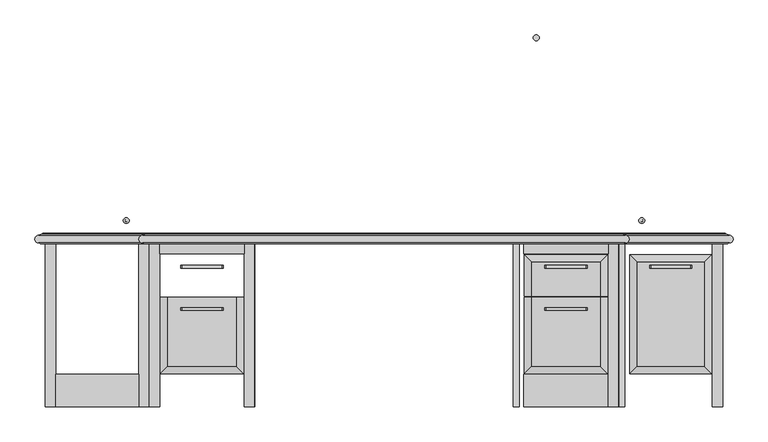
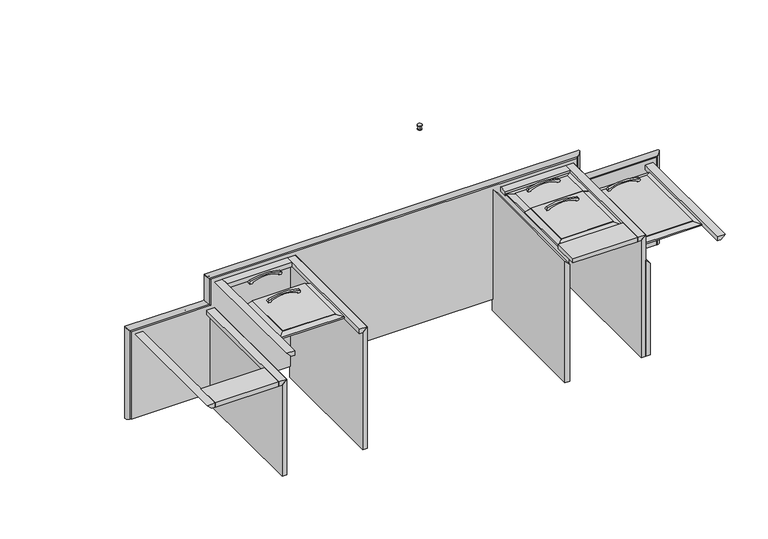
"""IFC4 building model written with IfcOpenShell, lengths in millimetres: proxy geometry, CCN^BRIGHTON_L2-C STEPPED WALL-SOLID ASSEMBLY."""

from ifc_helpers import new_model, si_unit, point, frame, frame_2d, origin, place, context, project, spatial, polyline, circle_curve, ellipse_curve, trimmed, segment, composite_curve, outline, extrude, faceted_brep, source, transform, mapped, element, save
from ifc_brep_helpers import plane_surface, cylinder_surface, revolved_surface, advanced_brep


def generic_models_80e4cf9a(model_context):
    return source(origin(), model_context, "Body", "SolidModel", [
        extrude(outline(composite_curve([segment(polyline([(-594.8536526, 2798.0542667), (-594.8536526, 2809.3679752)]), True, "CONTINUOUS"), segment(trimmed(circle_curve(frame_2d((-587.8536526, 2803.7111209)), 9.0), [point((-594.8536526, 2809.3679752))], [point((-587.8536526, 2812.7111209))], False, "CARTESIAN"), True, "CONTINUOUS"), segment(trimmed(circle_curve(frame_2d((-750.4231454, 2884.7111209)), 177.8), [point((-587.8536526, 2812.7111209))], [point((-587.8536526, 2956.7111209))], True, "CARTESIAN"), True, "CONTINUOUS"), segment(trimmed(circle_curve(frame_2d((-587.8536526, 2965.7111209)), 9.0), [point((-587.8536526, 2956.7111209))], [point((-594.8536526, 2960.0542667))], False, "CARTESIAN"), True, "CONTINUOUS"), segment(polyline([(-594.8536526, 2960.0542667), (-594.8536526, 2971.3679752)]), True, "CONTINUOUS"), segment(trimmed(circle_curve(frame_2d((-587.8536526, 2965.7111209)), 9.0), [point((-594.8536526, 2971.3679752))], [point((-579.2402298, 2968.3205169))], False, "CARTESIAN"), True, "CONTINUOUS"), segment(trimmed(circle_curve(frame_2d((-855.2286526, 2884.7111209)), 288.375), [point((-579.2402298, 2968.3205169))], [point((-579.2402298, 2801.1017249))], False, "CARTESIAN"), True, "CONTINUOUS"), segment(trimmed(circle_curve(frame_2d((-587.8536526, 2803.7111209)), 9.0), [point((-579.2402298, 2801.1017249))], [point((-594.8536526, 2798.0542667))], False, "CARTESIAN"), True, "CONTINUOUS")], self_intersect=False)), frame((0.0, -1149.5512284, 0.0), z_axis=(0.0, 1.0, 0.0), x_axis=(0.0, 0.0, 1.0)), (0.0, 0.0, 1.0), 12.0),
        advanced_brep(
        [(2310.0361209, -178.1512284, -631.0036526), (2310.0361209, -178.1512284, -627.0036526), (2310.0361209, -153.1512284, -627.0036526), (2310.0361209, -153.1512284, -631.0036526), (2310.0361209, -172.1512284, -640.075142), (2310.0361209, -176.1512284, -648.0036526), (2310.0361209, -155.1512284, -648.0036526), (2310.0361209, -159.1512284, -640.075142), (2310.0361209, -176.1512284, -652.0036526), (2310.0361209, -155.1512284, -652.0036526)],
        [
            (0, 1),
            (1, 2, circle_curve(frame((2310.0361209, -165.6512284, -627.0036526), z_axis=(0.0, 0.0, -1.0), x_axis=(0.0, -1.0, 0.0)), 12.5)),
            (2, 3),
            (3, 0, circle_curve(frame((2310.0361209, -165.6512284, -631.0036526), z_axis=(0.0, 0.0, 1.0), x_axis=(0.0, -1.0, 0.0)), 12.5)),
            (0, 4, circle_curve(frame((2310.0361209, -182.0088884, -640.075142), z_axis=(-1.0, 0.0, 0.0), x_axis=(0.0, -1.0, 0.0)), 9.85766)),
            (4, 5, circle_curve(frame((2310.0361209, -182.0088884, -640.075142), z_axis=(-1.0, 0.0, 0.0), x_axis=(0.0, -1.0, 0.0)), 9.85766)),
            (5, 6, circle_curve(frame((2310.0361209, -165.6512284, -648.0036526), z_axis=(0.0, 0.0, 1.0), x_axis=(0.0, -1.0, 0.0)), 10.5)),
            (6, 7, circle_curve(frame((2310.0361209, -149.2935683, -640.075142), z_axis=(-1.0, 0.0, 0.0), x_axis=(0.0, 1.0, 0.0)), 9.85766)),
            (7, 3, circle_curve(frame((2310.0361209, -149.2935683, -640.075142), z_axis=(-1.0, 0.0, 0.0), x_axis=(0.0, 1.0, 0.0)), 9.85766)),
            (3, 0, circle_curve(frame((2310.0361209, -165.6512284, -631.0036526), z_axis=(0.0, 0.0, -1.0), x_axis=(0.0, -1.0, 0.0)), 12.5)),
            (8, 5),
            (5, 6, circle_curve(frame((2310.0361209, -165.6512284, -648.0036526), z_axis=(0.0, 0.0, -1.0), x_axis=(0.0, -1.0, 0.0)), 10.5)),
            (6, 9),
            (9, 8, circle_curve(frame((2310.0361209, -165.6512284, -652.0036526), z_axis=(0.0, 0.0, 1.0), x_axis=(0.0, -1.0, 0.0)), 10.5)),
            (9, 8, circle_curve(frame((2310.0361209, -165.6512284, -652.0036526), z_axis=(0.0, 0.0, -1.0), x_axis=(0.0, -1.0, 0.0)), 10.5)),
            (2, 1, circle_curve(frame((2310.0361209, -165.6512284, -627.0036526), z_axis=(0.0, 0.0, -1.0), x_axis=(0.0, -1.0, 0.0)), 12.5)),
        ],
        [
            cylinder_surface(frame((2310.0361209, -165.6512284, -629.0036526), z_axis=(0.0, 0.0, 1.0), x_axis=(0.0, -1.0, 0.0)), 12.5),
            revolved_surface(trimmed(ellipse_curve(frame((2310.0361209, -182.0088884, -640.075142), z_axis=(1.0, 0.0, 0.0), x_axis=(0.0, -1.0, 0.0)), 9.85766, 9.85766), [point((2310.0361209, -176.1512284, -648.0036526))], [point((2310.0361209, -178.1512284, -631.0036526))], True, "CARTESIAN"), (2310.0361209, -165.6512284, -640.075142), (0.0, 0.0, 1.0)),
            cylinder_surface(frame((2310.0361209, -165.6512284, -650.0036526), z_axis=(0.0, 0.0, 1.0), x_axis=(0.0, -1.0, 0.0)), 10.5),
            plane_surface(frame((2310.0361209, -176.1512284, -652.0036526), z_axis=(0.0, 0.0, -1.0), x_axis=(0.0, 1.0, 0.0))),
            revolved_surface(trimmed(ellipse_curve(frame((2310.0361209, -149.2935683, -640.075142), z_axis=(-1.0, 0.0, 0.0), x_axis=(0.0, 1.0, 0.0)), 9.85766, 9.85766), [point((2310.0361209, -155.1512284, -648.0036526))], [point((2310.0361209, -153.1512284, -631.0036526))], True, "CARTESIAN"), (2310.0361209, -165.6512284, -640.075142), (0.0, 0.0, 1.0)),
            plane_surface(frame((2310.0361209, -165.6512284, -627.0036526), z_axis=(0.0, 0.0, 1.0), x_axis=(0.0, -1.0, 0.0))),
        ],
        [
            (0, [[1, 2, 3, 4]]),
            (1, [[5, 6, 7, 8, 9, 10]]),
            (2, [[11, 12, 13, 14]]),
            (3, [[15, -14]]),
            (2, [[-11, -15, -13, -7]]),
            (4, [[-5, -4, -9, -8, -12, -6]]),
            (0, [[-1, -10, -3, 16]]),
            (5, [[-16, -2]]),
        ],
    ),
        extrude(outline(composite_curve([segment(polyline([(-442.4536526, 794.6292667), (-442.4536526, 805.9429752)]), True, "CONTINUOUS"), segment(trimmed(circle_curve(frame_2d((-435.4536526, 800.2861209)), 9.0), [point((-442.4536526, 805.9429752))], [point((-435.4536526, 809.2861209))], False, "CARTESIAN"), True, "CONTINUOUS"), segment(trimmed(circle_curve(frame_2d((-598.0231454, 881.2861209)), 177.8), [point((-435.4536526, 809.2861209))], [point((-435.4536526, 953.2861209))], True, "CARTESIAN"), True, "CONTINUOUS"), segment(trimmed(circle_curve(frame_2d((-435.4536526, 962.2861209)), 9.0), [point((-435.4536526, 953.2861209))], [point((-442.4536526, 956.6292667))], False, "CARTESIAN"), True, "CONTINUOUS"), segment(polyline([(-442.4536526, 956.6292667), (-442.4536526, 967.9429752)]), True, "CONTINUOUS"), segment(trimmed(circle_curve(frame_2d((-435.4536526, 962.2861209)), 9.0), [point((-442.4536526, 967.9429752))], [point((-426.8402298, 964.8955169))], False, "CARTESIAN"), True, "CONTINUOUS"), segment(trimmed(circle_curve(frame_2d((-702.8286526, 881.2861209)), 288.375), [point((-426.8402298, 964.8955169))], [point((-426.8402298, 797.6767249))], False, "CARTESIAN"), True, "CONTINUOUS"), segment(trimmed(circle_curve(frame_2d((-435.4536526, 800.2861209)), 9.0), [point((-426.8402298, 797.6767249))], [point((-442.4536526, 794.6292667))], False, "CARTESIAN"), True, "CONTINUOUS")], self_intersect=False)), frame((0.0, -1149.5512284, 0.0), z_axis=(0.0, 1.0, 0.0), x_axis=(0.0, 0.0, 1.0)), (0.0, 0.0, 1.0), 12.0),
        extrude(outline(composite_curve([segment(polyline([(-442.4536526, 2350.3792667), (-442.4536526, 2361.6929752)]), True, "CONTINUOUS"), segment(trimmed(circle_curve(frame_2d((-435.4536526, 2356.0361209)), 9.0), [point((-442.4536526, 2361.6929752))], [point((-435.4536526, 2365.0361209))], False, "CARTESIAN"), True, "CONTINUOUS"), segment(trimmed(circle_curve(frame_2d((-598.0231454, 2437.0361209)), 177.8), [point((-435.4536526, 2365.0361209))], [point((-435.4536526, 2509.0361209))], True, "CARTESIAN"), True, "CONTINUOUS"), segment(trimmed(circle_curve(frame_2d((-435.4536526, 2518.0361209)), 9.0), [point((-435.4536526, 2509.0361209))], [point((-442.4536526, 2512.3792667))], False, "CARTESIAN"), True, "CONTINUOUS"), segment(polyline([(-442.4536526, 2512.3792667), (-442.4536526, 2523.6929752)]), True, "CONTINUOUS"), segment(trimmed(circle_curve(frame_2d((-435.4536526, 2518.0361209)), 9.0), [point((-442.4536526, 2523.6929752))], [point((-426.8402298, 2520.6455169))], False, "CARTESIAN"), True, "CONTINUOUS"), segment(trimmed(circle_curve(frame_2d((-702.8286526, 2437.0361209)), 288.375), [point((-426.8402298, 2520.6455169))], [point((-426.8402298, 2353.4267249))], False, "CARTESIAN"), True, "CONTINUOUS"), segment(trimmed(circle_curve(frame_2d((-435.4536526, 2356.0361209)), 9.0), [point((-426.8402298, 2353.4267249))], [point((-442.4536526, 2350.3792667))], False, "CARTESIAN"), True, "CONTINUOUS")], self_intersect=False)), frame((0.0, -1149.5512284, 0.0), z_axis=(0.0, 1.0, 0.0), x_axis=(0.0, 0.0, 1.0)), (0.0, 0.0, 1.0), 12.0),
        extrude(outline(composite_curve([segment(polyline([(-442.4536526, 2350.3792667), (-442.4536526, 2361.6929752)]), True, "CONTINUOUS"), segment(trimmed(circle_curve(frame_2d((-435.4536526, 2356.0361209)), 9.0), [point((-442.4536526, 2361.6929752))], [point((-435.4536526, 2365.0361209))], False, "CARTESIAN"), True, "CONTINUOUS"), segment(trimmed(circle_curve(frame_2d((-598.0231454, 2437.0361209)), 177.8), [point((-435.4536526, 2365.0361209))], [point((-435.4536526, 2509.0361209))], True, "CARTESIAN"), True, "CONTINUOUS"), segment(trimmed(circle_curve(frame_2d((-435.4536526, 2518.0361209)), 9.0), [point((-435.4536526, 2509.0361209))], [point((-442.4536526, 2512.3792667))], False, "CARTESIAN"), True, "CONTINUOUS"), segment(polyline([(-442.4536526, 2512.3792667), (-442.4536526, 2523.6929752)]), True, "CONTINUOUS"), segment(trimmed(circle_curve(frame_2d((-435.4536526, 2518.0361209)), 9.0), [point((-442.4536526, 2523.6929752))], [point((-426.8402298, 2520.6455169))], False, "CARTESIAN"), True, "CONTINUOUS"), segment(trimmed(circle_curve(frame_2d((-702.8286526, 2437.0361209)), 288.375), [point((-426.8402298, 2520.6455169))], [point((-426.8402298, 2353.4267249))], False, "CARTESIAN"), True, "CONTINUOUS"), segment(trimmed(circle_curve(frame_2d((-435.4536526, 2356.0361209)), 9.0), [point((-426.8402298, 2353.4267249))], [point((-442.4536526, 2350.3792667))], False, "CARTESIAN"), True, "CONTINUOUS")], self_intersect=False)), frame((0.0, -1330.5262284, 0.0), z_axis=(0.0, 1.0, 0.0), x_axis=(0.0, 0.0, 1.0)), (0.0, 0.0, 1.0), 12.0),
        advanced_brep(
        [(2760.8861209, -959.2012284, -631.0036526), (2760.8861209, -959.2012284, -627.0036526), (2760.8861209, -934.2012284, -627.0036526), (2760.8861209, -934.2012284, -631.0036526), (2760.8861209, -953.2012284, -640.075142), (2760.8861209, -957.2012284, -648.0036526), (2760.8861209, -936.2012284, -648.0036526), (2760.8861209, -940.2012284, -640.075142), (2760.8861209, -957.2012284, -652.0036526), (2760.8861209, -936.2012284, -652.0036526)],
        [
            (0, 1),
            (1, 2, circle_curve(frame((2760.8861209, -946.7012284, -627.0036526), z_axis=(0.0, 0.0, -1.0), x_axis=(0.0, -1.0, 0.0)), 12.5)),
            (2, 3),
            (3, 0, circle_curve(frame((2760.8861209, -946.7012284, -631.0036526), z_axis=(0.0, 0.0, 1.0), x_axis=(0.0, -1.0, 0.0)), 12.5)),
            (0, 4, circle_curve(frame((2760.8861209, -963.0588884, -640.075142), z_axis=(-1.0, 0.0, 0.0), x_axis=(0.0, -1.0, 0.0)), 9.85766)),
            (4, 5, circle_curve(frame((2760.8861209, -963.0588884, -640.075142), z_axis=(-1.0, 0.0, 0.0), x_axis=(0.0, -1.0, 0.0)), 9.85766)),
            (5, 6, circle_curve(frame((2760.8861209, -946.7012284, -648.0036526), z_axis=(0.0, 0.0, 1.0), x_axis=(0.0, -1.0, 0.0)), 10.5)),
            (6, 7, circle_curve(frame((2760.8861209, -930.3435683, -640.075142), z_axis=(-1.0, 0.0, 0.0), x_axis=(0.0, 1.0, 0.0)), 9.85766)),
            (7, 3, circle_curve(frame((2760.8861209, -930.3435683, -640.075142), z_axis=(-1.0, 0.0, 0.0), x_axis=(0.0, 1.0, 0.0)), 9.85766)),
            (3, 0, circle_curve(frame((2760.8861209, -946.7012284, -631.0036526), z_axis=(0.0, 0.0, -1.0), x_axis=(0.0, -1.0, 0.0)), 12.5)),
            (8, 5),
            (5, 6, circle_curve(frame((2760.8861209, -946.7012284, -648.0036526), z_axis=(0.0, 0.0, -1.0), x_axis=(0.0, -1.0, 0.0)), 10.5)),
            (6, 9),
            (9, 8, circle_curve(frame((2760.8861209, -946.7012284, -652.0036526), z_axis=(0.0, 0.0, 1.0), x_axis=(0.0, -1.0, 0.0)), 10.5)),
            (9, 8, circle_curve(frame((2760.8861209, -946.7012284, -652.0036526), z_axis=(0.0, 0.0, -1.0), x_axis=(0.0, -1.0, 0.0)), 10.5)),
            (2, 1, circle_curve(frame((2760.8861209, -946.7012284, -627.0036526), z_axis=(0.0, 0.0, -1.0), x_axis=(0.0, -1.0, 0.0)), 12.5)),
        ],
        [
            cylinder_surface(frame((2760.8861209, -946.7012284, -629.0036526), z_axis=(0.0, 0.0, 1.0), x_axis=(0.0, -1.0, 0.0)), 12.5),
            revolved_surface(trimmed(ellipse_curve(frame((2760.8861209, -963.0588884, -640.075142), z_axis=(1.0, 0.0, 0.0), x_axis=(0.0, -1.0, 0.0)), 9.85766, 9.85766), [point((2760.8861209, -957.2012284, -648.0036526))], [point((2760.8861209, -959.2012284, -631.0036526))], True, "CARTESIAN"), (2760.8861209, -946.7012284, -640.075142), (0.0, 0.0, 1.0)),
            cylinder_surface(frame((2760.8861209, -946.7012284, -650.0036526), z_axis=(0.0, 0.0, 1.0), x_axis=(0.0, -1.0, 0.0)), 10.5),
            plane_surface(frame((2760.8861209, -957.2012284, -652.0036526), z_axis=(0.0, 0.0, -1.0), x_axis=(0.0, 1.0, 0.0))),
            revolved_surface(trimmed(ellipse_curve(frame((2760.8861209, -930.3435683, -640.075142), z_axis=(-1.0, 0.0, 0.0), x_axis=(0.0, 1.0, 0.0)), 9.85766, 9.85766), [point((2760.8861209, -936.2012284, -648.0036526))], [point((2760.8861209, -934.2012284, -631.0036526))], True, "CARTESIAN"), (2760.8861209, -946.7012284, -640.075142), (0.0, 0.0, 1.0)),
            plane_surface(frame((2760.8861209, -946.7012284, -627.0036526), z_axis=(0.0, 0.0, 1.0), x_axis=(0.0, -1.0, 0.0))),
        ],
        [
            (0, [[1, 2, 3, 4]]),
            (1, [[5, 6, 7, 8, 9, 10]]),
            (2, [[11, 12, 13, 14]]),
            (3, [[15, -14]]),
            (2, [[-11, -15, -13, -7]]),
            (4, [[-5, -4, -9, -8, -12, -6]]),
            (0, [[-1, -10, -3, 16]]),
            (5, [[-16, -2]]),
        ],
    ),
        advanced_brep(
        [(557.4361209, -959.2012284, -631.0036526), (557.4361209, -959.2012284, -627.0036526), (557.4361209, -934.2012284, -627.0036526), (557.4361209, -934.2012284, -631.0036526), (557.4361209, -953.2012284, -640.075142), (557.4361209, -957.2012284, -648.0036526), (557.4361209, -936.2012284, -648.0036526), (557.4361209, -940.2012284, -640.075142), (557.4361209, -957.2012284, -652.0036526), (557.4361209, -936.2012284, -652.0036526)],
        [
            (0, 1),
            (1, 2, circle_curve(frame((557.4361209, -946.7012284, -627.0036526), z_axis=(0.0, 0.0, -1.0), x_axis=(0.0, -1.0, 0.0)), 12.5)),
            (2, 3),
            (3, 0, circle_curve(frame((557.4361209, -946.7012284, -631.0036526), z_axis=(0.0, 0.0, 1.0), x_axis=(0.0, -1.0, 0.0)), 12.5)),
            (0, 4, circle_curve(frame((557.4361209, -963.0588884, -640.075142), z_axis=(-1.0, 0.0, 0.0), x_axis=(0.0, -1.0, 0.0)), 9.85766)),
            (4, 5, circle_curve(frame((557.4361209, -963.0588884, -640.075142), z_axis=(-1.0, 0.0, 0.0), x_axis=(0.0, -1.0, 0.0)), 9.85766)),
            (5, 6, circle_curve(frame((557.4361209, -946.7012284, -648.0036526), z_axis=(0.0, 0.0, 1.0), x_axis=(0.0, -1.0, 0.0)), 10.5)),
            (6, 7, circle_curve(frame((557.4361209, -930.3435683, -640.075142), z_axis=(-1.0, 0.0, 0.0), x_axis=(0.0, 1.0, 0.0)), 9.85766)),
            (7, 3, circle_curve(frame((557.4361209, -930.3435683, -640.075142), z_axis=(-1.0, 0.0, 0.0), x_axis=(0.0, 1.0, 0.0)), 9.85766)),
            (3, 0, circle_curve(frame((557.4361209, -946.7012284, -631.0036526), z_axis=(0.0, 0.0, -1.0), x_axis=(0.0, -1.0, 0.0)), 12.5)),
            (8, 5),
            (5, 6, circle_curve(frame((557.4361209, -946.7012284, -648.0036526), z_axis=(0.0, 0.0, -1.0), x_axis=(0.0, -1.0, 0.0)), 10.5)),
            (6, 9),
            (9, 8, circle_curve(frame((557.4361209, -946.7012284, -652.0036526), z_axis=(0.0, 0.0, 1.0), x_axis=(0.0, -1.0, 0.0)), 10.5)),
            (9, 8, circle_curve(frame((557.4361209, -946.7012284, -652.0036526), z_axis=(0.0, 0.0, -1.0), x_axis=(0.0, -1.0, 0.0)), 10.5)),
            (2, 1, circle_curve(frame((557.4361209, -946.7012284, -627.0036526), z_axis=(0.0, 0.0, -1.0), x_axis=(0.0, -1.0, 0.0)), 12.5)),
        ],
        [
            cylinder_surface(frame((557.4361209, -946.7012284, -629.0036526), z_axis=(0.0, 0.0, 1.0), x_axis=(0.0, -1.0, 0.0)), 12.5),
            revolved_surface(trimmed(ellipse_curve(frame((557.4361209, -963.0588884, -640.075142), z_axis=(1.0, 0.0, 0.0), x_axis=(0.0, -1.0, 0.0)), 9.85766, 9.85766), [point((557.4361209, -957.2012284, -648.0036526))], [point((557.4361209, -959.2012284, -631.0036526))], True, "CARTESIAN"), (557.4361209, -946.7012284, -640.075142), (0.0, 0.0, 1.0)),
            cylinder_surface(frame((557.4361209, -946.7012284, -650.0036526), z_axis=(0.0, 0.0, 1.0), x_axis=(0.0, -1.0, 0.0)), 10.5),
            plane_surface(frame((557.4361209, -957.2012284, -652.0036526), z_axis=(0.0, 0.0, -1.0), x_axis=(0.0, 1.0, 0.0))),
            revolved_surface(trimmed(ellipse_curve(frame((557.4361209, -930.3435683, -640.075142), z_axis=(-1.0, 0.0, 0.0), x_axis=(0.0, 1.0, 0.0)), 9.85766, 9.85766), [point((557.4361209, -936.2012284, -648.0036526))], [point((557.4361209, -934.2012284, -631.0036526))], True, "CARTESIAN"), (557.4361209, -946.7012284, -640.075142), (0.0, 0.0, 1.0)),
            plane_surface(frame((557.4361209, -946.7012284, -627.0036526), z_axis=(0.0, 0.0, 1.0), x_axis=(0.0, -1.0, 0.0))),
        ],
        [
            (0, [[1, 2, 3, 4]]),
            (1, [[5, 6, 7, 8, 9, 10]]),
            (2, [[11, 12, 13, 14]]),
            (3, [[15, -14]]),
            (2, [[-11, -15, -13, -7]]),
            (4, [[-5, -4, -9, -8, -12, -6]]),
            (0, [[-1, -10, -3, 16]]),
            (5, [[-16, -2]]),
        ],
    ),
        extrude(outline(composite_curve([segment(polyline([(-442.4536526, 794.6292667), (-442.4536526, 805.9429752)]), True, "CONTINUOUS"), segment(trimmed(circle_curve(frame_2d((-435.4536526, 800.2861209)), 9.0), [point((-442.4536526, 805.9429752))], [point((-435.4536526, 809.2861209))], False, "CARTESIAN"), True, "CONTINUOUS"), segment(trimmed(circle_curve(frame_2d((-598.0231454, 881.2861209)), 177.8), [point((-435.4536526, 809.2861209))], [point((-435.4536526, 953.2861209))], True, "CARTESIAN"), True, "CONTINUOUS"), segment(trimmed(circle_curve(frame_2d((-435.4536526, 962.2861209)), 9.0), [point((-435.4536526, 953.2861209))], [point((-442.4536526, 956.6292667))], False, "CARTESIAN"), True, "CONTINUOUS"), segment(polyline([(-442.4536526, 956.6292667), (-442.4536526, 967.9429752)]), True, "CONTINUOUS"), segment(trimmed(circle_curve(frame_2d((-435.4536526, 962.2861209)), 9.0), [point((-442.4536526, 967.9429752))], [point((-426.8402298, 964.8955169))], False, "CARTESIAN"), True, "CONTINUOUS"), segment(trimmed(circle_curve(frame_2d((-702.8286526, 881.2861209)), 288.375), [point((-426.8402298, 964.8955169))], [point((-426.8402298, 797.6767249))], False, "CARTESIAN"), True, "CONTINUOUS"), segment(trimmed(circle_curve(frame_2d((-435.4536526, 800.2861209)), 9.0), [point((-426.8402298, 797.6767249))], [point((-442.4536526, 794.6292667))], False, "CARTESIAN"), True, "CONTINUOUS")], self_intersect=False)), frame((0.0, -1330.5262284, 0.0), z_axis=(0.0, 1.0, 0.0), x_axis=(0.0, 0.0, 1.0)), (0.0, 0.0, 1.0), 12.0),
        extrude(outline(polyline([(2256.0611209, -1038.7762284), (2618.0111209, -1038.7762284), (2618.0111209, -1089.5762284), (2256.0611209, -1089.5762284), (2256.0611209, -1038.7762284)])), frame((0.0, 0.0, -467.8536526), z_axis=(0.0, 0.0, 1.0), x_axis=(1.0, 0.0, 0.0)), (0.0, 0.0, 1.0), 25.4),
        extrude(outline(polyline([(700.3111209, -1038.7762284), (1062.2611209, -1038.7762284), (1062.2611209, -1089.5762284), (700.3111209, -1089.5762284), (700.3111209, -1038.7762284)])), frame((0.0, 0.0, -467.8536526), z_axis=(0.0, 0.0, 1.0), x_axis=(1.0, 0.0, 0.0)), (0.0, 0.0, 1.0), 25.4),
        extrude(outline(polyline([(-442.4536526, 2662.4611209), (-467.8536526, 2637.0611209), (-1160.0036526, 2637.0611209), (-1160.0036526, 2662.4611209), (-442.4536526, 2662.4611209)])), frame((0.0, -1743.6262284, 0.0), z_axis=(0.0, 1.0, 0.0), x_axis=(0.0, 0.0, 1.0)), (0.0, 0.0, 1.0), 704.85),
        extrude(outline(polyline([(-594.8536526, 655.8611209), (-620.2536526, 630.4611209), (-1160.0036526, 630.4611209), (-1160.0036526, 655.8611209), (-594.8536526, 655.8611209)])), frame((0.0, -1743.6262284, 0.0), z_axis=(0.0, 1.0, 0.0), x_axis=(0.0, 0.0, 1.0)), (0.0, 0.0, 1.0), 704.85),
        extrude(outline(polyline([(611.4111209, -1743.6262284), (255.8111209, -1743.6262284), (255.8111209, -1603.9262284), (611.4111209, -1603.9262284), (611.4111209, -1743.6262284)])), frame((0.0, 0.0, -620.2536526), z_axis=(0.0, 0.0, 1.0), x_axis=(1.0, 0.0, 0.0)), (0.0, 0.0, 1.0), 25.4),
        advanced_brep(
        [(3128.4493596, -1045.1262284, -1090.1536526), (189.8728822, -1045.1262284, -1090.1536526), (183.9200495, -1041.9674481, -1090.1536526), (182.7861209, -1010.2579973, -1090.1536526), (182.7861209, -1008.6704973, -1090.1536526), (197.6579488, -1003.2575946, -1090.1536526), (200.8582395, -1000.6762284, -1090.1536526), (3117.4640023, -1000.6762284, -1090.1536526), (3120.664293, -1003.2575946, -1090.1536526), (3135.5361209, -1008.6704973, -1090.1536526), (3135.5361209, -1010.2579973, -1090.1536526), (3134.4021923, -1041.9674481, -1090.1536526), (3128.4493596, -1045.1262284, -573.3654139), (2683.9493596, -1045.1262284, -573.3654139), (2683.9493596, -1045.1262284, -420.9654139), (634.3728822, -1045.1262284, -420.9654139), (634.3728822, -1045.1262284, -573.3654139), (189.8728822, -1045.1262284, -573.3654139), (3117.4640023, -1000.6762284, -584.3507712), (3120.664293, -1003.2575946, -581.1504805), (3135.5361209, -1008.6704973, -566.2786526), (3135.5361209, -1010.2579973, -566.2786526), (2672.9640023, -1000.6762284, -584.3507712), (2676.164293, -1003.2575946, -581.1504805), (2691.0361209, -1008.6704973, -566.2786526), (2691.0361209, -1010.2579973, -566.2786526), (2672.9640023, -1000.6762284, -431.9507712), (2676.164293, -1003.2575946, -428.7504805), (2691.0361209, -1008.6704973, -413.8786526), (2691.0361209, -1010.2579973, -413.8786526), (645.3582395, -1000.6762284, -431.9507712), (642.1579488, -1003.2575946, -428.7504805), (627.2861209, -1008.6704973, -413.8786526), (627.2861209, -1010.2579973, -413.8786526), (645.3582395, -1000.6762284, -584.3507712), (642.1579488, -1003.2575946, -581.1504805), (627.2861209, -1008.6704973, -566.2786526), (627.2861209, -1010.2579973, -566.2786526), (200.8582395, -1000.6762284, -584.3507712), (197.6579488, -1003.2575946, -581.1504805), (182.7861209, -1008.6704973, -566.2786526), (182.7861209, -1010.2579973, -566.2786526), (3135.5361209, -1042.0079973, -566.2786526), (3134.4021923, -1041.9674481, -567.4125811), (3133.9486209, -1041.9512284, -567.8661526), (2691.0361209, -1042.0079973, -566.2786526), (2689.9021923, -1041.9674481, -567.4125811), (2689.4486209, -1041.9512284, -567.8661526), (2691.0361209, -1042.0079973, -413.8786526), (2689.9021923, -1041.9674481, -415.0125811), (2689.4486209, -1041.9512284, -415.4661526), (627.2861209, -1042.0079973, -413.8786526), (628.4200495, -1041.9674481, -415.0125811), (628.8736209, -1041.9512284, -415.4661526), (627.2861209, -1042.0079973, -566.2786526), (628.4200495, -1041.9674481, -567.4125811), (628.8736209, -1041.9512284, -567.8661526), (182.7861209, -1042.0079973, -566.2786526), (183.9200495, -1041.9674481, -567.4125811), (184.3736209, -1041.9512284, -567.8661526)],
        [
            (0, 1),
            (1, 2, circle_curve(frame((184.3736209, -1048.3012284, -1090.1536526), z_axis=(0.0, 0.0, 1.0), x_axis=(-0.071428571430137, 0.9974457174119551, 0.0)), 6.35)),
            (2, 3, circle_curve(frame((182.7861209, -1026.1329973, -1090.1536526), z_axis=(0.0, 0.0, -1.0), x_axis=(-0.07142857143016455, 0.9974457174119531, 0.0)), 15.875)),
            (3, 4),
            (4, 5),
            (5, 6, circle_curve(frame((195.4861209, -997.2905465, -1090.1536526), z_axis=(0.0, 0.0, 1.0), x_axis=(0.8460029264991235, -0.533178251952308, 0.0)), 6.35)),
            (6, 7),
            (7, 8, circle_curve(frame((3122.8361209, -997.2905465, -1090.1536526), z_axis=(0.0, 0.0, 1.0), x_axis=(-1.0, 0.0, 0.0)), 6.35)),
            (8, 9),
            (9, 10),
            (10, 11, circle_curve(frame((3135.5361209, -1026.1329973, -1090.1536526), z_axis=(0.0, 0.0, -1.0), x_axis=(1.0, 0.0, 0.0)), 15.875)),
            (11, 0, circle_curve(frame((3133.9486209, -1048.3012284, -1090.1536526), z_axis=(0.0, 0.0, 1.0), x_axis=(1.0, 0.0, 0.0)), 6.35)),
            (0, 12),
            (12, 13),
            (13, 14),
            (14, 15),
            (15, 16),
            (16, 17),
            (17, 1),
            (18, 19, ellipse_curve(frame((3122.8361209, -997.2905465, -578.9786526), z_axis=(-0.7071067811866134, 0.0, 0.7071067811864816), x_axis=(-0.7071067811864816, 0.0, -0.7071067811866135)), 8.9802561, 6.35)),
            (19, 8),
            (7, 18),
            (19, 20),
            (20, 9),
            (20, 21),
            (21, 10),
            (22, 23, ellipse_curve(frame((2678.3361209, -997.2905465, -578.9786526), z_axis=(-0.7071067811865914, 0.0, 0.7071067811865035), x_axis=(0.7071067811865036, 0.0, 0.7071067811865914)), 8.9802561, 6.35)),
            (23, 19),
            (18, 22),
            (23, 24),
            (24, 20),
            (24, 25),
            (25, 21),
            (26, 27, ellipse_curve(frame((2678.3361209, -997.2905465, -426.5786526), z_axis=(-0.7071067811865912, 0.0, 0.7071067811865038), x_axis=(-0.7071067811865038, 0.0, -0.7071067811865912)), 8.9802561, 6.35)),
            (27, 23),
            (22, 26),
            (27, 28),
            (28, 24),
            (28, 29),
            (29, 25),
            (30, 31, ellipse_curve(frame((639.9861209, -997.2905465, -426.5786526), z_axis=(-0.7071067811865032, 0.0, -0.7071067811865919), x_axis=(0.7071067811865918, 0.0, -0.7071067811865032)), 8.9802561, 6.35)),
            (31, 27),
            (26, 30),
            (31, 32),
            (32, 28),
            (32, 33),
            (33, 29),
            (34, 35, ellipse_curve(frame((639.9861209, -997.2905465, -578.9786526), z_axis=(-0.7071067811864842, 0.0, -0.7071067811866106), x_axis=(-0.7071067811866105, 0.0, 0.7071067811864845)), 8.9802561, 6.35)),
            (35, 31),
            (30, 34),
            (35, 36),
            (36, 32),
            (36, 37),
            (37, 33),
            (38, 39, ellipse_curve(frame((195.4861209, -997.2905465, -578.9786526), z_axis=(-0.7071067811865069, 0.0, -0.7071067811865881), x_axis=(0.7071067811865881, 0.0, -0.7071067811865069)), 8.9802561, 6.35)),
            (39, 35),
            (34, 38),
            (39, 40),
            (40, 36),
            (40, 41),
            (41, 37),
            (5, 39),
            (38, 6),
            (4, 40),
            (3, 41),
            (42, 43, ellipse_curve(frame((3135.5361209, -1026.1329973, -566.2786526), z_axis=(0.7071067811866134, 0.0, -0.7071067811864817), x_axis=(-0.7071067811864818, 0.0, -0.7071067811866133)), 22.4506403, 15.875)),
            (43, 11),
            (21, 42, ellipse_curve(frame((3135.5361209, -1026.1329973, -566.2786526), z_axis=(0.7071067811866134, 0.0, -0.7071067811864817), x_axis=(-0.7071067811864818, 0.0, -0.7071067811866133)), 22.4506403, 15.875)),
            (44, 12, ellipse_curve(frame((3133.9486209, -1048.3012284, -567.8661526), z_axis=(-0.7071067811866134, 0.0, 0.7071067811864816), x_axis=(-0.7071067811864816, 0.0, -0.7071067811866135)), 8.9802561, 6.35)),
            (43, 44, ellipse_curve(frame((3133.9486209, -1048.3012284, -567.8661526), z_axis=(-0.7071067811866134, 0.0, 0.7071067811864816), x_axis=(-0.7071067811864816, 0.0, -0.7071067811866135)), 8.9802561, 6.35)),
            (45, 46, ellipse_curve(frame((2691.0361209, -1026.1329973, -566.2786526), z_axis=(0.7071067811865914, 0.0, -0.7071067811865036), x_axis=(0.7071067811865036, 0.0, 0.7071067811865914)), 22.4506403, 15.875)),
            (46, 43),
            (25, 45, ellipse_curve(frame((2691.0361209, -1026.1329973, -566.2786526), z_axis=(0.7071067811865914, 0.0, -0.7071067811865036), x_axis=(0.7071067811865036, 0.0, 0.7071067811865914)), 22.4506403, 15.875)),
            (47, 13, ellipse_curve(frame((2689.4486209, -1048.3012284, -567.8661526), z_axis=(-0.7071067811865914, 0.0, 0.7071067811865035), x_axis=(0.7071067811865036, 0.0, 0.7071067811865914)), 8.9802561, 6.35)),
            (46, 47, ellipse_curve(frame((2689.4486209, -1048.3012284, -567.8661526), z_axis=(-0.7071067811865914, 0.0, 0.7071067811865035), x_axis=(0.7071067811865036, 0.0, 0.7071067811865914)), 8.9802561, 6.35)),
            (48, 49, ellipse_curve(frame((2691.0361209, -1026.1329973, -413.8786526), z_axis=(0.7071067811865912, 0.0, -0.7071067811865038), x_axis=(-0.7071067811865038, 0.0, -0.7071067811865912)), 22.4506403, 15.875)),
            (49, 46),
            (29, 48, ellipse_curve(frame((2691.0361209, -1026.1329973, -413.8786526), z_axis=(0.7071067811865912, 0.0, -0.7071067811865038), x_axis=(-0.7071067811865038, 0.0, -0.7071067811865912)), 22.4506403, 15.875)),
            (50, 14, ellipse_curve(frame((2689.4486209, -1048.3012284, -415.4661526), z_axis=(-0.7071067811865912, 0.0, 0.7071067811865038), x_axis=(-0.7071067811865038, 0.0, -0.7071067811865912)), 8.9802561, 6.35)),
            (49, 50, ellipse_curve(frame((2689.4486209, -1048.3012284, -415.4661526), z_axis=(-0.7071067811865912, 0.0, 0.7071067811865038), x_axis=(-0.7071067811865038, 0.0, -0.7071067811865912)), 8.9802561, 6.35)),
            (51, 52, ellipse_curve(frame((627.2861209, -1026.1329973, -413.8786526), z_axis=(0.7071067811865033, 0.0, 0.7071067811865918), x_axis=(0.7071067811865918, 0.0, -0.7071067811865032)), 22.4506403, 15.875)),
            (52, 49),
            (33, 51, ellipse_curve(frame((627.2861209, -1026.1329973, -413.8786526), z_axis=(0.7071067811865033, 0.0, 0.7071067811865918), x_axis=(0.7071067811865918, 0.0, -0.7071067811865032)), 22.4506403, 15.875)),
            (53, 15, ellipse_curve(frame((628.8736209, -1048.3012284, -415.4661526), z_axis=(-0.7071067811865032, 0.0, -0.7071067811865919), x_axis=(0.7071067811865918, 0.0, -0.7071067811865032)), 8.9802561, 6.35)),
            (52, 53, ellipse_curve(frame((628.8736209, -1048.3012284, -415.4661526), z_axis=(-0.7071067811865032, 0.0, -0.7071067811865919), x_axis=(0.7071067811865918, 0.0, -0.7071067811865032)), 8.9802561, 6.35)),
            (54, 55, ellipse_curve(frame((627.2861209, -1026.1329973, -566.2786526), z_axis=(0.7071067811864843, 0.0, 0.7071067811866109), x_axis=(-0.7071067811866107, 0.0, 0.7071067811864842)), 22.4506403, 15.875)),
            (55, 52),
            (37, 54, ellipse_curve(frame((627.2861209, -1026.1329973, -566.2786526), z_axis=(0.7071067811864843, 0.0, 0.7071067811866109), x_axis=(-0.7071067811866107, 0.0, 0.7071067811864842)), 22.4506403, 15.875)),
            (56, 16, ellipse_curve(frame((628.8736209, -1048.3012284, -567.8661526), z_axis=(-0.7071067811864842, 0.0, -0.7071067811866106), x_axis=(-0.7071067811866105, 0.0, 0.7071067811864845)), 8.9802561, 6.35)),
            (55, 56, ellipse_curve(frame((628.8736209, -1048.3012284, -567.8661526), z_axis=(-0.7071067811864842, 0.0, -0.7071067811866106), x_axis=(-0.7071067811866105, 0.0, 0.7071067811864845)), 8.9802561, 6.35)),
            (57, 58, ellipse_curve(frame((182.7861209, -1026.1329973, -566.2786526), z_axis=(0.7071067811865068, 0.0, 0.7071067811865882), x_axis=(0.7071067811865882, 0.0, -0.7071067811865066)), 22.4506403, 15.875)),
            (58, 55),
            (41, 57, ellipse_curve(frame((182.7861209, -1026.1329973, -566.2786526), z_axis=(0.7071067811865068, 0.0, 0.7071067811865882), x_axis=(0.7071067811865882, 0.0, -0.7071067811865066)), 22.4506403, 15.875)),
            (59, 17, ellipse_curve(frame((184.3736209, -1048.3012284, -567.8661526), z_axis=(-0.7071067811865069, 0.0, -0.7071067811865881), x_axis=(0.7071067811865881, 0.0, -0.7071067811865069)), 8.9802561, 6.35)),
            (58, 59, ellipse_curve(frame((184.3736209, -1048.3012284, -567.8661526), z_axis=(-0.7071067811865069, 0.0, -0.7071067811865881), x_axis=(0.7071067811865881, 0.0, -0.7071067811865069)), 8.9802561, 6.35)),
            (2, 58),
        ],
        [
            plane_surface(frame((3106.9611209, -1000.6762284, -1090.1536526), z_axis=(0.0, 0.0, -1.0), x_axis=(1.0, 0.0, 0.0))),
            plane_surface(frame((1659.1611209, -1045.1262284, -744.0786526), z_axis=(0.0, -1.0, 0.0), x_axis=(0.0, 0.0, -1.0))),
            revolved_surface(polyline([(3116.4861209, -997.2905465, -1090.1536526), (3116.4861209, -997.2905465, -572.6286526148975)]), (3122.8361209, -997.2905465, -578.9786526), (0.0, 0.0, -1.0)),
            plane_surface(frame((3135.5361209, -1008.6704973, -566.2786526), z_axis=(0.3420201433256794, 0.9396926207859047, 0.0), x_axis=(-0.6847910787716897, 0.24924356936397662, -0.6847910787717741))),
            plane_surface(frame((3135.5361209, -1010.2579973, -566.2786526), z_axis=(1.0, 0.0, 0.0), x_axis=(0.0, 1.0, 0.0))),
            revolved_surface(polyline([(3129.1861208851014, -997.2905465, -585.3286526), (2671.9861209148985, -997.2905465, -585.3286526)]), (2678.3361209, -997.2905465, -578.9786526), (1.0, 0.0, 0.0)),
            plane_surface(frame((2691.0361209, -1008.6704973, -566.2786526), z_axis=(0.0, 0.9396926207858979, 0.3420201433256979), x_axis=(-0.6847910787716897, 0.24924356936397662, -0.6847910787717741))),
            plane_surface(frame((2691.0361209, -1010.2579973, -566.2786526), z_axis=(0.0, 0.0, 1.0), x_axis=(0.0, 1.0, 0.0))),
            revolved_surface(polyline([(2671.9861209, -997.2905465, -585.3286525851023), (2671.9861209, -997.2905465, -420.2286526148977)]), (2678.3361209, -997.2905465, -426.5786526), (0.0, 0.0, -1.0)),
            plane_surface(frame((2691.0361209, -1008.6704973, -413.8786526), z_axis=(0.34202014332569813, 0.9396926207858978, 0.0), x_axis=(-0.6847910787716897, 0.24924356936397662, -0.6847910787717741))),
            plane_surface(frame((2691.0361209, -1010.2579973, -413.8786526), z_axis=(1.0, 0.0, 0.0), x_axis=(0.0, 1.0, 0.0))),
            revolved_surface(polyline([(2684.6861208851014, -997.2905465, -432.9286526), (633.6361209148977, -997.2905465, -432.9286526)]), (639.9861209, -997.2905465, -426.5786526), (1.0, 0.0, 0.0)),
            plane_surface(frame((627.2861209, -1008.6704973, -413.8786526), z_axis=(0.0, 0.939692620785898, 0.3420201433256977), x_axis=(0.6847910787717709, 0.2492435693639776, -0.6847910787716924))),
            plane_surface(frame((627.2861209, -1010.2579973, -413.8786526), z_axis=(0.0, 0.0, 1.0), x_axis=(0.0, 1.0, 0.0))),
            revolved_surface(polyline([(646.3361209, -997.2905465, -420.2286526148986), (646.3361209, -997.2905465, -585.3286525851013)]), (639.9861209, -997.2905465, -578.9786526), (0.0, 0.0, 1.0)),
            plane_surface(frame((627.2861209, -1008.6704973, -566.2786526), z_axis=(-0.3420201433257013, 0.9396926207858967, 0.0), x_axis=(0.6847910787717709, 0.2492435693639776, -0.6847910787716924))),
            plane_surface(frame((627.2861209, -1010.2579973, -566.2786526), z_axis=(-1.0, 0.0, 0.0), x_axis=(0.0, 1.0, 0.0))),
            revolved_surface(polyline([(646.3361208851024, -997.2905465, -585.3286526), (189.1361209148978, -997.2905465, -585.3286526)]), (195.4861209, -997.2905465, -578.9786526), (1.0, 0.0, 0.0)),
            plane_surface(frame((182.7861209, -1008.6704973, -566.2786526), z_axis=(0.0, 0.9396926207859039, 0.3420201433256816), x_axis=(0.6847910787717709, 0.2492435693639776, -0.6847910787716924))),
            plane_surface(frame((182.7861209, -1010.2579973, -566.2786526), z_axis=(0.0, 0.0, 1.0), x_axis=(0.0, 1.0, 0.0))),
            revolved_surface(polyline([(200.85823948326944, -1000.6762283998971, -572.6286526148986), (200.85823948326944, -1000.6762283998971, -1090.1536526)]), (195.4861209, -997.2905465, -1090.1536526), (0.0, 0.0, 1.0)),
            plane_surface(frame((182.7861209, -1008.6704973, -1090.1536526), z_axis=(-0.34202014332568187, 0.9396926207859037, 0.0), x_axis=(0.9396926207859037, 0.34202014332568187, 0.0))),
            plane_surface(frame((182.7861209, -1010.2579973, -1090.1536526), z_axis=(-1.0, 0.0, 0.0), x_axis=(0.0, 1.0, 0.0))),
            cylinder_surface(frame((3135.5361209, -1026.1329973, -566.2786526), z_axis=(0.0, 0.0, -1.0), x_axis=(1.0, 0.0, 0.0)), 15.875),
            revolved_surface(polyline([(3140.2986209, -1048.3012284, -1090.1536526), (3140.2986209, -1048.3012284, -561.5161526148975)]), (3133.9486209, -1048.3012284, -567.8661526), (0.0, 0.0, -1.0)),
            cylinder_surface(frame((2691.0361209, -1026.1329973, -566.2786526), z_axis=(1.0, 0.0, 0.0), x_axis=(0.0, 0.0, 1.0)), 15.875),
            revolved_surface(polyline([(3140.2986208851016, -1048.3012284, -561.5161525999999), (2683.0986209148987, -1048.3012284, -561.5161525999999)]), (2689.4486209, -1048.3012284, -567.8661526), (1.0, 0.0, 0.0)),
            cylinder_surface(frame((2691.0361209, -1026.1329973, -413.8786526), z_axis=(0.0, 0.0, -1.0), x_axis=(1.0, 0.0, 0.0)), 15.875),
            revolved_surface(polyline([(2695.7986209, -1048.3012284, -574.2161525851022), (2695.7986209, -1048.3012284, -409.1161526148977)]), (2689.4486209, -1048.3012284, -415.4661526), (0.0, 0.0, -1.0)),
            cylinder_surface(frame((627.2861209, -1026.1329973, -413.8786526), z_axis=(1.0, 0.0, 0.0), x_axis=(0.0, 0.0, 1.0)), 15.875),
            revolved_surface(polyline([(2695.7986208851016, -1048.3012284, -409.11615259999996), (622.5236209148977, -1048.3012284, -409.11615259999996)]), (628.8736209, -1048.3012284, -415.4661526), (1.0, 0.0, 0.0)),
            cylinder_surface(frame((627.2861209, -1026.1329973, -566.2786526), z_axis=(0.0, 0.0, 1.0), x_axis=(-1.0, 0.0, 0.0)), 15.875),
            revolved_surface(polyline([(622.5236209, -1048.3012284, -409.1161526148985), (622.5236209, -1048.3012284, -574.2161525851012)]), (628.8736209, -1048.3012284, -567.8661526), (0.0, 0.0, 1.0)),
            cylinder_surface(frame((182.7861209, -1026.1329973, -566.2786526), z_axis=(1.0, 0.0, 0.0), x_axis=(0.0, 0.0, 1.0)), 15.875),
            revolved_surface(polyline([(635.2236208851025, -1048.3012284, -561.5161525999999), (178.02362091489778, -1048.3012284, -561.5161525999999)]), (184.3736209, -1048.3012284, -567.8661526), (1.0, 0.0, 0.0)),
            cylinder_surface(frame((182.7861209, -1026.1329973, -1090.1536526), z_axis=(0.0, 0.0, 0.9999999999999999), x_axis=(-0.07142857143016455, 0.9974457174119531, 0.0)), 15.875),
            revolved_surface(polyline([(183.92004947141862, -1041.967448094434, -561.5161526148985), (183.92004947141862, -1041.967448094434, -1090.1536526)]), (184.3736209, -1048.3012284, -1090.1536526), (0.0, 0.0, 1.0)),
            plane_surface(frame((1659.1611209, -1000.6762284, -744.0786526), z_axis=(0.0, 1.0, 0.0), x_axis=(0.0, 0.0, 1.0))),
        ],
        [
            (0, [[1, 2, 3, 4, 5, 6, 7, 8, 9, 10, 11, 12]]),
            (1, [[-1, 13, 14, 15, 16, 17, 18, 19]]),
            (2, [[20, 21, -8, 22]]),
            (3, [[23, 24, -9, -21]]),
            (4, [[25, 26, -10, -24]]),
            (5, [[27, 28, -20, 29]]),
            (6, [[30, 31, -23, -28]]),
            (7, [[32, 33, -25, -31]]),
            (8, [[34, 35, -27, 36]]),
            (9, [[37, 38, -30, -35]]),
            (10, [[39, 40, -32, -38]]),
            (11, [[41, 42, -34, 43]]),
            (12, [[44, 45, -37, -42]]),
            (13, [[46, 47, -39, -45]]),
            (14, [[48, 49, -41, 50]]),
            (15, [[51, 52, -44, -49]]),
            (16, [[53, 54, -46, -52]]),
            (17, [[55, 56, -48, 57]]),
            (18, [[58, 59, -51, -56]]),
            (19, [[60, 61, -53, -59]]),
            (20, [[-6, 62, -55, 63]]),
            (21, [[-5, 64, -58, -62]]),
            (22, [[-4, 65, -60, -64]]),
            (23, [[66, 67, -11, -26, 68]]),
            (24, [[69, -13, -12, -67, 70]]),
            (25, [[71, 72, -66, -68, -33, 73]]),
            (26, [[74, -14, -69, -70, -72, 75]]),
            (27, [[76, 77, -71, -73, -40, 78]]),
            (28, [[79, -15, -74, -75, -77, 80]]),
            (29, [[81, 82, -76, -78, -47, 83]]),
            (30, [[84, -16, -79, -80, -82, 85]]),
            (31, [[86, 87, -81, -83, -54, 88]]),
            (32, [[89, -17, -84, -85, -87, 90]]),
            (33, [[91, 92, -86, -88, -61, 93]]),
            (34, [[94, -18, -89, -90, -92, 95]]),
            (35, [[-3, 96, -91, -93, -65]]),
            (36, [[-2, -19, -94, -95, -96]]),
            (37, [[-7, -63, -57, -50, -43, -36, -29, -22]]),
        ],
    ),
        extrude(outline(polyline([(-620.2536526, 611.4111209), (-620.2536526, 630.4611209), (-594.8536526, 655.8611209), (-594.8536526, 611.4111209), (-620.2536526, 611.4111209)])), frame((0.0, -1743.6262284, 0.0), z_axis=(0.0, 1.0, 0.0), x_axis=(0.0, 0.0, 1.0)), (0.0, 0.0, 1.0), 704.85),
        faceted_brep([(1027.3361209, -1569.0012284, -445.6286526), (1059.0861209, -1600.7512284, -454.1360394), (1059.0861209, -1273.7262284, -454.1360394), (1027.3361209, -1273.7262284, -445.6286526), (1027.3361209, -1569.0012284, -442.4536526), (1027.3361209, -1273.7262284, -442.4536526), (735.2361209, -1569.0012284, -445.6286526), (703.4861209, -1600.7512284, -454.1360394), (735.2361209, -1569.0012284, -442.4536526), (735.2361209, -1273.7262284, -445.6286526), (703.4861209, -1273.7262284, -454.1360394), (735.2361209, -1273.7262284, -442.4536526), (1059.0861209, -1600.7512284, -461.5036526), (1059.0861209, -1273.7262284, -461.5036526), (703.4861209, -1600.7512284, -461.5036526), (703.4861209, -1273.7262284, -461.5036526)], [[[0, 1, 2, 3]], [[4, 0, 3, 5]], [[6, 7, 1, 0]], [[8, 6, 0, 4]], [[9, 10, 7, 6]], [[11, 9, 6, 8]], [[2, 1, 12, 13]], [[1, 7, 14, 12]], [[5, 3, 2, 13, 15, 10, 9, 11]], [[7, 10, 15, 14]], [[4, 5, 11, 8]], [[12, 14, 15, 13]]]),
        extrude(outline(polyline([(-467.8536526, 2237.0111209), (-442.4536526, 2211.6111209), (-1160.0036526, 2211.6111209), (-1160.0036526, 2237.0111209), (-467.8536526, 2237.0111209)])), frame((0.0, -1743.6262284, 0.0), z_axis=(0.0, 1.0, 0.0), x_axis=(0.0, 0.0, 1.0)), (0.0, 0.0, 1.0), 704.85),
        extrude(outline(polyline([(-467.8536526, 681.2611209), (-467.8536526, 700.3111209), (-442.4536526, 700.3111209), (-442.4536526, 655.8611209), (-467.8536526, 681.2611209)])), frame((0.0, -1743.6262284, 0.0), z_axis=(0.0, 1.0, 0.0), x_axis=(0.0, 0.0, 1.0)), (0.0, 0.0, 1.0), 704.85),
        faceted_brep([(2290.9861209, -1270.5512284, -445.6286526), (2290.9861209, -1270.5512284, -442.4536526), (2290.9861209, -1124.5012284, -442.4536526), (2290.9861209, -1124.5012284, -445.6286526), (2259.2361209, -1270.5512284, -454.1360394), (2259.2361209, -1092.7512284, -454.1360394), (2583.0861209, -1270.5512284, -445.6286526), (2614.8361209, -1270.5512284, -454.1360394), (2614.8361209, -1092.7512284, -454.1360394), (2583.0861209, -1124.5012284, -445.6286526), (2583.0861209, -1270.5512284, -442.4536526), (2583.0861209, -1124.5012284, -442.4536526), (2614.8361209, -1092.7512284, -461.5036526), (2259.2361209, -1092.7512284, -461.5036526), (2259.2361209, -1270.5512284, -461.5036526), (2614.8361209, -1270.5512284, -461.5036526)], [[[0, 1, 2, 3]], [[4, 0, 3, 5]], [[6, 7, 8, 9]], [[10, 6, 9, 11]], [[9, 8, 5, 3]], [[11, 9, 3, 2]], [[10, 11, 2, 1]], [[5, 8, 12, 13]], [[4, 5, 13, 14]], [[6, 10, 1, 0, 4, 14, 15, 7]], [[8, 7, 15, 12]], [[12, 15, 14, 13]]]),
        extrude(outline(polyline([(-620.2536526, 3062.5111209), (-620.2536526, 3081.5611209), (-594.8536526, 3106.9611209), (-594.8536526, 3062.5111209), (-620.2536526, 3062.5111209)])), frame((0.0, -1743.6262284, 0.0), z_axis=(0.0, 1.0, 0.0), x_axis=(0.0, 0.0, 1.0)), (0.0, 0.0, 1.0), 704.85),
        extrude(outline(polyline([(-467.8536526, 2618.0111209), (-467.8536526, 2637.0611209), (-442.4536526, 2662.4611209), (-442.4536526, 2618.0111209), (-467.8536526, 2618.0111209)])), frame((0.0, -1743.6262284, 0.0), z_axis=(0.0, 1.0, 0.0), x_axis=(0.0, 0.0, 1.0)), (0.0, 0.0, 1.0), 704.85),
        faceted_brep([(2583.0861209, -1273.7262284, -445.6286526), (2583.0861209, -1273.7262284, -442.4536526), (2583.0861209, -1569.0012284, -442.4536526), (2583.0861209, -1569.0012284, -445.6286526), (2614.8361209, -1273.7262284, -454.1360394), (2614.8361209, -1600.7512284, -454.1360394), (2290.9861209, -1569.0012284, -445.6286526), (2259.2361209, -1600.7512284, -454.1360394), (2290.9861209, -1569.0012284, -442.4536526), (2290.9861209, -1273.7262284, -445.6286526), (2259.2361209, -1273.7262284, -454.1360394), (2290.9861209, -1273.7262284, -442.4536526), (2614.8361209, -1600.7512284, -461.5036526), (2614.8361209, -1273.7262284, -461.5036526), (2259.2361209, -1600.7512284, -461.5036526), (2259.2361209, -1273.7262284, -461.5036526)], [[[0, 1, 2, 3]], [[4, 0, 3, 5]], [[6, 7, 5, 3]], [[8, 6, 3, 2]], [[9, 10, 7, 6]], [[11, 9, 6, 8]], [[4, 5, 12, 13]], [[5, 7, 14, 12]], [[1, 0, 4, 13, 15, 10, 9, 11]], [[7, 10, 15, 14]], [[2, 1, 11, 8]], [[13, 12, 14, 15]]]),
        extrude(outline(polyline([(-620.2536526, 2687.8611209), (-594.8536526, 2662.4611209), (-1160.0036526, 2662.4611209), (-1160.0036526, 2687.8611209), (-620.2536526, 2687.8611209)])), frame((0.0, -1743.6262284, 0.0), z_axis=(0.0, 1.0, 0.0), x_axis=(0.0, 0.0, 1.0)), (0.0, 0.0, 1.0), 704.85),
        extrude(outline(polyline([(-442.4536526, 1106.7111209), (-467.8536526, 1081.3111209), (-1160.0036526, 1081.3111209), (-1160.0036526, 1106.7111209), (-442.4536526, 1106.7111209)])), frame((0.0, -1743.6262284, 0.0), z_axis=(0.0, 1.0, 0.0), x_axis=(0.0, 0.0, 1.0)), (0.0, 0.0, 1.0), 704.85),
        extrude(outline(polyline([(2618.0111209, -1743.6262284), (2256.0611209, -1743.6262284), (2256.0611209, -1603.9262284), (2618.0111209, -1603.9262284), (2618.0111209, -1743.6262284)])), frame((0.0, 0.0, -467.8536526), z_axis=(0.0, 0.0, 1.0), x_axis=(1.0, 0.0, 0.0)), (0.0, 0.0, 1.0), 25.4),
        extrude(outline(polyline([(-620.2536526, 236.7611209), (-620.2536526, 255.8111209), (-594.8536526, 255.8111209), (-594.8536526, 211.3611209), (-620.2536526, 236.7611209)])), frame((0.0, -1743.6262284, 0.0), z_axis=(0.0, 1.0, 0.0), x_axis=(0.0, 0.0, 1.0)), (0.0, 0.0, 1.0), 704.85),
        faceted_brep([(3027.5861209, -1569.0012284, -598.0286526), (3059.3361209, -1600.7512284, -606.5360394), (3059.3361209, -1092.7512284, -606.5360394), (3027.5861209, -1124.5012284, -598.0286526), (3027.5861209, -1569.0012284, -594.8536526), (3027.5861209, -1124.5012284, -594.8536526), (2741.8361209, -1569.0012284, -598.0286526), (2710.0861209, -1600.7512284, -606.5360394), (2741.8361209, -1569.0012284, -594.8536526), (2741.8361209, -1124.5012284, -598.0286526), (2710.0861209, -1092.7512284, -606.5360394), (2741.8361209, -1124.5012284, -594.8536526), (3059.3361209, -1092.7512284, -613.9036526), (2710.0861209, -1092.7512284, -613.9036526), (3059.3361209, -1600.7512284, -613.9036526), (2710.0861209, -1600.7512284, -613.9036526)], [[[0, 1, 2, 3]], [[4, 0, 3, 5]], [[6, 7, 1, 0]], [[8, 6, 0, 4]], [[9, 10, 7, 6]], [[11, 9, 6, 8]], [[3, 2, 10, 9]], [[5, 3, 9, 11]], [[10, 2, 12, 13]], [[2, 1, 14, 12]], [[7, 10, 13, 15]], [[1, 7, 15, 14]], [[4, 5, 11, 8]], [[14, 15, 13, 12]]]),
        extrude(outline(polyline([(-467.8536526, 1062.2611209), (-467.8536526, 1081.3111209), (-442.4536526, 1106.7111209), (-442.4536526, 1062.2611209), (-467.8536526, 1062.2611209)])), frame((0.0, -1743.6262284, 0.0), z_axis=(0.0, 1.0, 0.0), x_axis=(0.0, 0.0, 1.0)), (0.0, 0.0, 1.0), 704.85),
    ])


if __name__ == "__main__":
    model = new_model("IFC4")
    model_context = context("Model", 3, world=origin())
    ifc_project = project(units=[si_unit("LENGTHUNIT", "METRE", prefix="MILLI")], contexts=[model_context])
    site = spatial("IfcSite", under=ifc_project)
    building = spatial("IfcBuilding", under=site)
    placement = place(None, origin())
    generic_models_shape = generic_models_80e4cf9a(model_context)
    element("IfcBuildingElementProxy", 1, Name="CCN^BRIGHTON_L2-C STEPPED WALL-SOLID ASSEMBLY", ObjectType="CCN^BRIGHTON_L2-C STEPPED WALL-SOLID ASSEMBLY", at=placement, inside=building, context=model_context, shape_type="MappedRepresentation", body=[
        mapped(generic_models_shape, transform((0.0, 0.0, 0.0), x_axis=(1.0, 0.0, 0.0), y_axis=(0.0, 1.0, 0.0), z_axis=(0.0, 0.0, 1.0))),
    ])
    save(model, "model.ifc")
